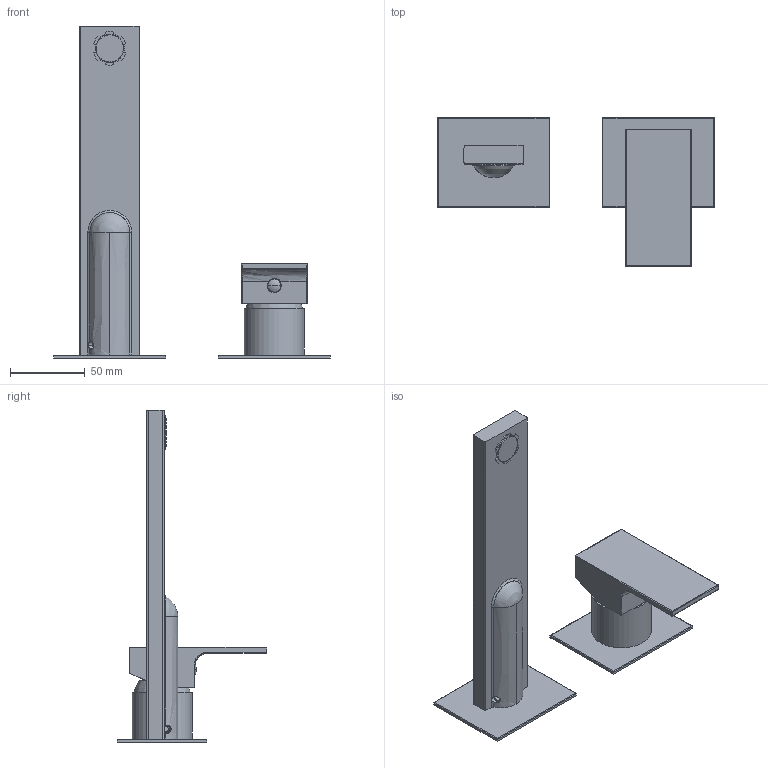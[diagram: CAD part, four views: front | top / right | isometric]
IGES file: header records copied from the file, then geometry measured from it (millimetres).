
Start section:  PTC IGES file: 35547_sw0001.igs
Global section: file name: 35547_sw0001.igs; native system: Creo Parametric by PTC Inc.; preprocessor: 2018100; author: volponeff; organization: Unknown; date: 20200918.161404; units: millimetre
Bounding box: 185 x 100 x 222 mm (x, y, z)
Surface area: 78216.5 mm2 (no closed solid volume)
Topology: 0 solids, 0 shells, 332 faces, 1643 edges, 1634 vertices
Faces by surface type: revolution 179, bspline 153
